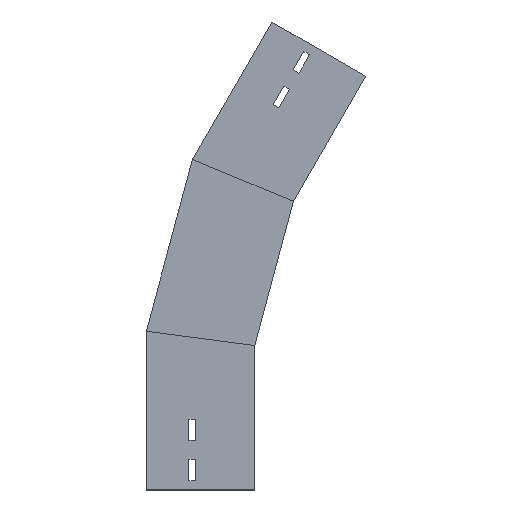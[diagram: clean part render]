
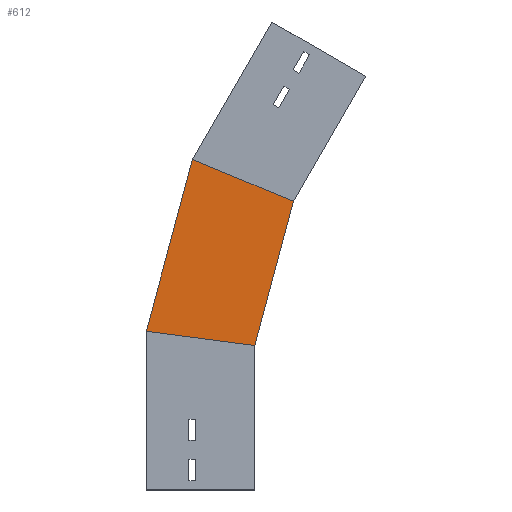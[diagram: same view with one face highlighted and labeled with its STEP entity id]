
A CAD part, left-side view. The second image highlights one B-rep face of the part: STEP entity #612.
In plain terms, the highlighted planar face has unit normal (-1, 0, 0) as drawn and (1, 0, 0) by its records, which use the part's own axes.
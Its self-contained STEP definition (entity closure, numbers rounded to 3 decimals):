
#15 = DIRECTION ( 'NONE',  ( 0., 0., -1. ) ) ;
#63 = VECTOR ( 'NONE', #1192, 1000. ) ;
#137 = FACE_OUTER_BOUND ( 'NONE', #977, .T. ) ;
#218 = CARTESIAN_POINT ( 'NONE',  ( 0., 112.5, 164.811 ) ) ;
#229 = CARTESIAN_POINT ( 'NONE',  ( 0., 4.243, 134.167 ) ) ;
#249 = VERTEX_POINT ( 'NONE', #218 ) ;
#268 = AXIS2_PLACEMENT_3D ( 'NONE', #229, #837, #15 ) ;
#373 = LINE ( 'NONE', #733, #870 ) ;
#423 = CARTESIAN_POINT ( 'NONE',  ( 0., -60.785, 291.157 ) ) ;
#440 = EDGE_CURVE ( 'NONE', #905, #840, #1460, .T. ) ;
#456 = ORIENTED_EDGE ( 'NONE', *, *, #1046, .T. ) ;
#480 = DIRECTION ( 'NONE',  ( 0., -0.259, 0.966 ) ) ;
#612 = ADVANCED_FACE ( 'NONE', ( #137 ), #1409, .T. ) ;
#615 = LINE ( 'NONE', #1083, #63 ) ;
#653 = LINE ( 'NONE', #423, #994 ) ;
#660 = DIRECTION ( 'NONE',  ( 0., -0.924, -0.383 ) ) ;
#683 = CARTESIAN_POINT ( 'NONE',  ( 0., -40.117, 299.719 ) ) ;
#691 = VECTOR ( 'NONE', #844, 1000. ) ;
#733 = CARTESIAN_POINT ( 'NONE',  ( 0., 112.909, 163.284 ) ) ;
#746 = EDGE_CURVE ( 'NONE', #249, #905, #615, .T. ) ;
#837 = DIRECTION ( 'NONE',  ( 1., 0., 0. ) ) ;
#840 = VERTEX_POINT ( 'NONE', #683 ) ;
#844 = DIRECTION ( 'NONE',  ( 0., -0.259, 0.966 ) ) ;
#870 = VECTOR ( 'NONE', #480, 1000. ) ;
#905 = VERTEX_POINT ( 'NONE', #1173 ) ;
#977 = EDGE_LOOP ( 'NONE', ( #1018, #456, #1180, #1468 ) ) ;
#994 = VECTOR ( 'NONE', #660, 1000. ) ;
#1010 = VERTEX_POINT ( 'NONE', #1093 ) ;
#1018 = ORIENTED_EDGE ( 'NONE', *, *, #1261, .T. ) ;
#1046 = EDGE_CURVE ( 'NONE', #1010, #840, #653, .T. ) ;
#1068 = CARTESIAN_POINT ( 'NONE',  ( 0., 4.243, 134.167 ) ) ;
#1083 = CARTESIAN_POINT ( 'NONE',  ( 0., -19.411, 147.444 ) ) ;
#1093 = CARTESIAN_POINT ( 'NONE',  ( 0., 64.716, 343.142 ) ) ;
#1173 = CARTESIAN_POINT ( 'NONE',  ( 0., 0., 150. ) ) ;
#1180 = ORIENTED_EDGE ( 'NONE', *, *, #440, .F. ) ;
#1192 = DIRECTION ( 'NONE',  ( 0., -0.991, -0.131 ) ) ;
#1261 = EDGE_CURVE ( 'NONE', #249, #1010, #373, .T. ) ;
#1409 = PLANE ( 'NONE',  #268 ) ;
#1460 = LINE ( 'NONE', #1068, #691 ) ;
#1468 = ORIENTED_EDGE ( 'NONE', *, *, #746, .F. ) ;
